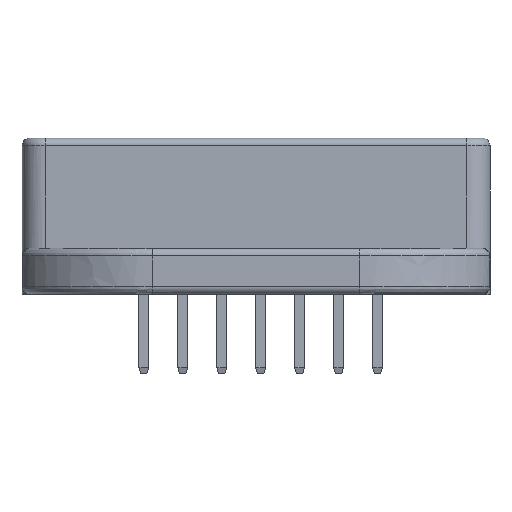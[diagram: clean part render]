
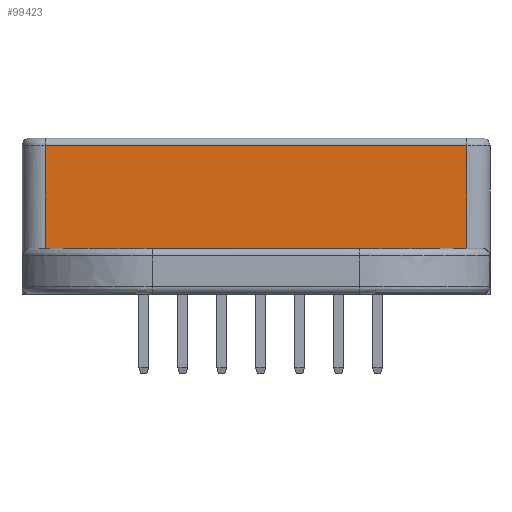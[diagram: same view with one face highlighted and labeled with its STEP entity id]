
A CAD part, left-side view. The second image highlights one B-rep face of the part: STEP entity #99423.
In plain terms, the highlighted planar face has unit normal (-1, 0, 0).
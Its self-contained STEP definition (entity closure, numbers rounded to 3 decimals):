
#97986 = VERTEX_POINT('',#97987);
#97987 = CARTESIAN_POINT('',(-12.25,-20.49,0.269));
#97994 = EDGE_CURVE('',#97986,#97995,#97997,.T.);
#97995 = VERTEX_POINT('',#97996);
#97996 = CARTESIAN_POINT('',(-12.25,-20.49,6.95));
#97997 = LINE('',#97998,#97999);
#97998 = CARTESIAN_POINT('',(-12.25,-20.49,-2.75));
#97999 = VECTOR('',#98000,1.);
#98000 = DIRECTION('',(0.,0.,1.));
#99423 = ADVANCED_FACE('',(#99424),#99449,.T.);
#99424 = FACE_BOUND('',#99425,.T.);
#99425 = EDGE_LOOP('',(#99426,#99434,#99435,#99443));
#99426 = ORIENTED_EDGE('',*,*,#99427,.T.);
#99427 = EDGE_CURVE('',#99428,#97986,#99430,.T.);
#99428 = VERTEX_POINT('',#99429);
#99429 = CARTESIAN_POINT('',(-12.25,7.01,0.269));
#99430 = LINE('',#99431,#99432);
#99431 = CARTESIAN_POINT('',(-12.25,-13.61,0.269));
#99432 = VECTOR('',#99433,1.);
#99433 = DIRECTION('',(0.,-1.,0.));
#99434 = ORIENTED_EDGE('',*,*,#97994,.T.);
#99435 = ORIENTED_EDGE('',*,*,#99436,.T.);
#99436 = EDGE_CURVE('',#97995,#99437,#99439,.T.);
#99437 = VERTEX_POINT('',#99438);
#99438 = CARTESIAN_POINT('',(-12.25,7.01,6.95));
#99439 = LINE('',#99440,#99441);
#99440 = CARTESIAN_POINT('',(-12.25,-20.49,6.95));
#99441 = VECTOR('',#99442,1.);
#99442 = DIRECTION('',(0.,1.,0.));
#99443 = ORIENTED_EDGE('',*,*,#99444,.F.);
#99444 = EDGE_CURVE('',#99428,#99437,#99445,.T.);
#99445 = LINE('',#99446,#99447);
#99446 = CARTESIAN_POINT('',(-12.25,7.01,-2.75));
#99447 = VECTOR('',#99448,1.);
#99448 = DIRECTION('',(0.,0.,1.));
#99449 = PLANE('',#99450);
#99450 = AXIS2_PLACEMENT_3D('',#99451,#99452,#99453);
#99451 = CARTESIAN_POINT('',(-12.25,-20.49,-2.75));
#99452 = DIRECTION('',(-1.,0.,0.));
#99453 = DIRECTION('',(0.,1.,0.));
